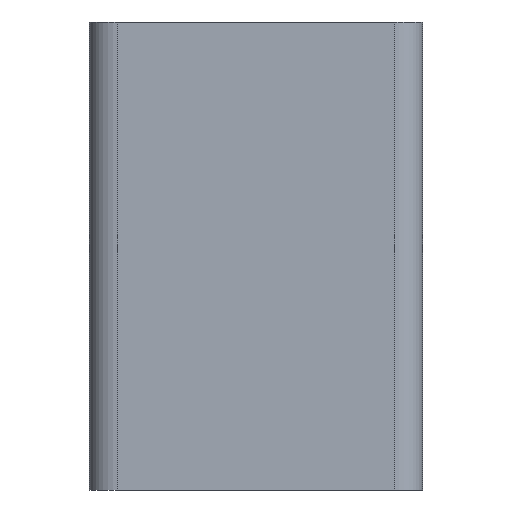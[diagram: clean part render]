
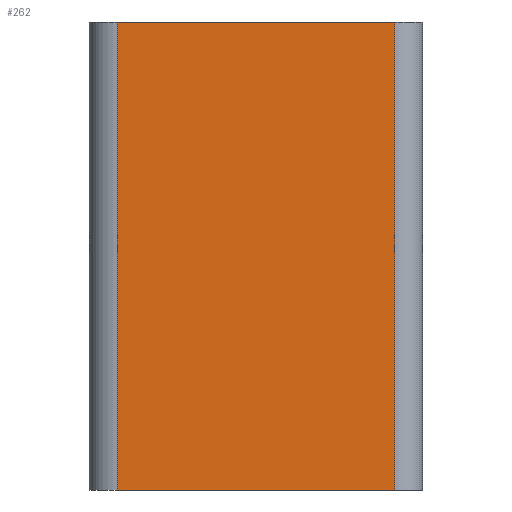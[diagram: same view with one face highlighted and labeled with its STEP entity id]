
A CAD part, front view. The second image highlights one B-rep face of the part: STEP entity #262.
In plain terms, the highlighted planar face has unit normal (0, -1, 0).
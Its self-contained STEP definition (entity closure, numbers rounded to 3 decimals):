
#3 = CARTESIAN_POINT ( 'NONE',  ( -13.4, -100.75, 0. ) ) ;
#13 = DIRECTION ( 'NONE',  ( 0., 0., 1. ) ) ;
#17 = AXIS2_PLACEMENT_3D ( 'NONE', #274, #64, #434 ) ;
#34 = CARTESIAN_POINT ( 'NONE',  ( 45.8, -100.75, 0. ) ) ;
#40 = VERTEX_POINT ( 'NONE', #623 ) ;
#47 = VECTOR ( 'NONE', #80, 1000. ) ;
#64 = DIRECTION ( 'NONE',  ( 0., -1., 0. ) ) ;
#75 = LINE ( 'NONE', #594, #126 ) ;
#79 = VERTEX_POINT ( 'NONE', #34 ) ;
#80 = DIRECTION ( 'NONE',  ( 1., 0., 0. ) ) ;
#126 = VECTOR ( 'NONE', #646, 1000. ) ;
#141 = VERTEX_POINT ( 'NONE', #3 ) ;
#142 = LINE ( 'NONE', #640, #555 ) ;
#183 = VERTEX_POINT ( 'NONE', #265 ) ;
#192 = VECTOR ( 'NONE', #13, 1000. ) ;
#245 = EDGE_CURVE ( 'NONE', #40, #79, #75, .T. ) ;
#248 = ORIENTED_EDGE ( 'NONE', *, *, #345, .F. ) ;
#262 = ADVANCED_FACE ( 'NONE', ( #618 ), #485, .T. ) ;
#265 = CARTESIAN_POINT ( 'NONE',  ( -13.4, -100.75, -100. ) ) ;
#274 = CARTESIAN_POINT ( 'NONE',  ( -13.4, -100.75, -100. ) ) ;
#275 = CARTESIAN_POINT ( 'NONE',  ( -13.4, -100.75, -100. ) ) ;
#294 = ORIENTED_EDGE ( 'NONE', *, *, #565, .F. ) ;
#308 = LINE ( 'NONE', #275, #192 ) ;
#345 = EDGE_CURVE ( 'NONE', #183, #141, #308, .T. ) ;
#389 = EDGE_LOOP ( 'NONE', ( #294, #248, #647, #429 ) ) ;
#429 = ORIENTED_EDGE ( 'NONE', *, *, #245, .T. ) ;
#434 = DIRECTION ( 'NONE',  ( 0., 0., -1. ) ) ;
#467 = EDGE_CURVE ( 'NONE', #183, #40, #142, .T. ) ;
#485 = PLANE ( 'NONE',  #17 ) ;
#512 = LINE ( 'NONE', #677, #47 ) ;
#543 = DIRECTION ( 'NONE',  ( 1., 0., 0. ) ) ;
#555 = VECTOR ( 'NONE', #543, 1000. ) ;
#565 = EDGE_CURVE ( 'NONE', #141, #79, #512, .T. ) ;
#594 = CARTESIAN_POINT ( 'NONE',  ( 45.8, -100.75, -100. ) ) ;
#618 = FACE_OUTER_BOUND ( 'NONE', #389, .T. ) ;
#623 = CARTESIAN_POINT ( 'NONE',  ( 45.8, -100.75, -100. ) ) ;
#640 = CARTESIAN_POINT ( 'NONE',  ( -13.4, -100.75, -100. ) ) ;
#646 = DIRECTION ( 'NONE',  ( 0., 0., 1. ) ) ;
#647 = ORIENTED_EDGE ( 'NONE', *, *, #467, .T. ) ;
#677 = CARTESIAN_POINT ( 'NONE',  ( -13.4, -100.75, 0. ) ) ;
